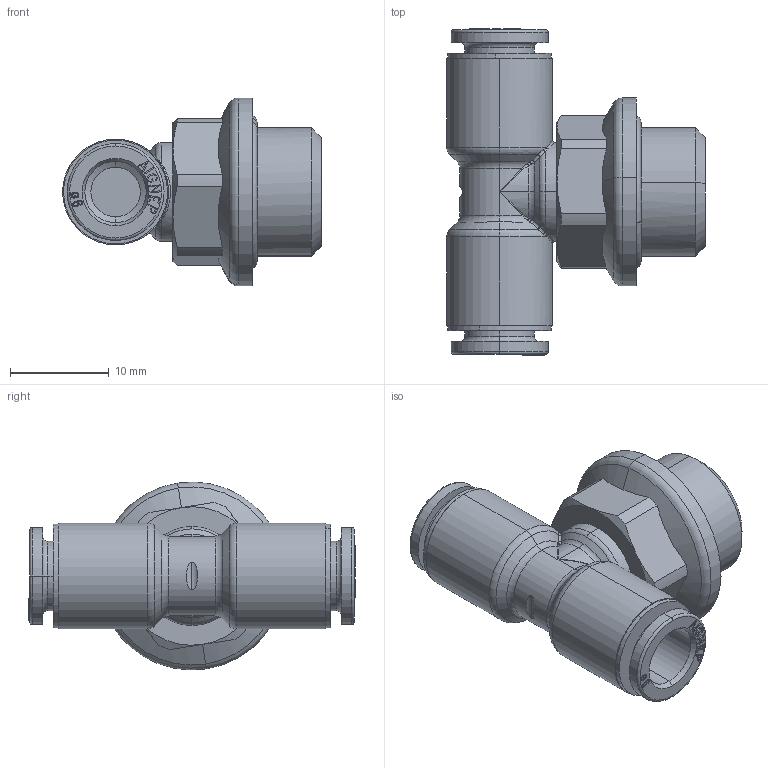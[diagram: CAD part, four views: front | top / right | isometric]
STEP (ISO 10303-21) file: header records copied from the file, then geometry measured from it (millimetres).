
FILE_DESCRIPTION (( 'STEP AP214' ), '1' );
FILE_NAME ('5421600014A.STEP', '2024-09-20T09:20:28', ( '' ), ( '' ), 'SwSTEP 2.0', 'SolidWorks 2020', '' );
FILE_SCHEMA (( 'AUTOMOTIVE_DESIGN' ));
Length unit declared in the file: millimetre
Products named in the file (1): 5421600014A
Bounding box: 26.15 x 33 x 19 mm (x, y, z)
Volume: 4393.2 mm3; surface area: 3010.5 mm2
Topology: 1 solids, 3 shells, 554 faces, 1454 edges, 939 vertices
Faces by surface type: plane 265, bspline 186, cylinder 46, torus 30, cone 27
Entity records: 26771 total; most frequent: CARTESIAN_POINT 8314, ORIENTED_EDGE 2900, DIRECTION 1977, EDGE_CURVE 1450, VERTEX_POINT 939, LINE 869, VECTOR 869, EDGE_LOOP 591
